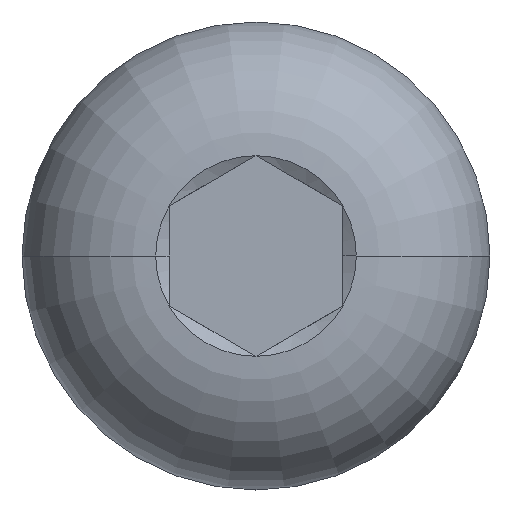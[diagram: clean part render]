
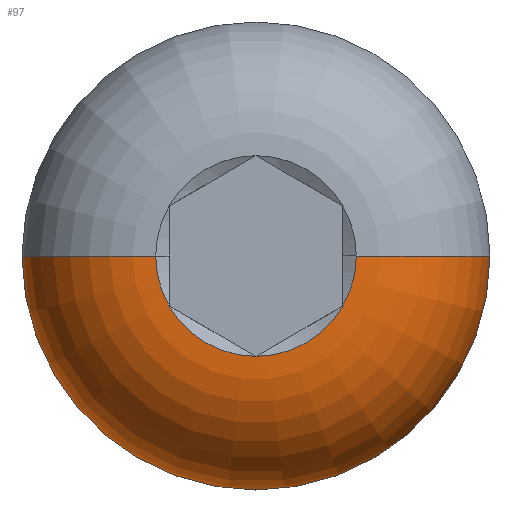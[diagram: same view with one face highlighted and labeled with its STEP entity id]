
A CAD part, left-side view. The second image highlights one B-rep face of the part: STEP entity #97.
In plain terms, the highlighted toroidal (fillet/blend) face has major radius 0.75 mm and minor radius 1 mm.
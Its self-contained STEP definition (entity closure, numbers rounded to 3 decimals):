
#41=TOROIDAL_SURFACE('',#766,0.75,1.);
#97=ADVANCED_FACE('',(#130),#41,.T.);
#130=FACE_OUTER_BOUND('',#164,.F.);
#164=EDGE_LOOP('',(#218,#219,#220,#221,#222,#223,#224));
#218=ORIENTED_EDGE('',*,*,#656,.F.);
#219=ORIENTED_EDGE('',*,*,#659,.F.);
#220=ORIENTED_EDGE('',*,*,#652,.T.);
#221=ORIENTED_EDGE('',*,*,#650,.T.);
#222=ORIENTED_EDGE('',*,*,#649,.T.);
#223=ORIENTED_EDGE('',*,*,#653,.T.);
#224=ORIENTED_EDGE('',*,*,#660,.F.);
#607=CIRCLE('',#747,0.75);
#608=CIRCLE('',#748,0.75);
#610=CIRCLE('',#750,0.75);
#611=CIRCLE('',#751,0.75);
#614=CIRCLE('',#754,1.75);
#615=CIRCLE('',#755,1.);
#616=CIRCLE('',#756,1.);
#649=EDGE_CURVE('',#719,#725,#607,.T.);
#650=EDGE_CURVE('',#720,#719,#608,.T.);
#652=EDGE_CURVE('',#710,#720,#610,.T.);
#653=EDGE_CURVE('',#725,#709,#611,.T.);
#656=EDGE_CURVE('',#706,#705,#614,.T.);
#659=EDGE_CURVE('',#710,#706,#615,.T.);
#660=EDGE_CURVE('',#705,#709,#616,.T.);
#705=VERTEX_POINT('',#967);
#706=VERTEX_POINT('',#968);
#709=VERTEX_POINT('',#971);
#710=VERTEX_POINT('',#972);
#719=VERTEX_POINT('',#981);
#720=VERTEX_POINT('',#982);
#725=VERTEX_POINT('',#987);
#747=AXIS2_PLACEMENT_3D('',#1051,#828,#829);
#748=AXIS2_PLACEMENT_3D('',#1052,#830,#831);
#750=AXIS2_PLACEMENT_3D('',#1054,#834,#835);
#751=AXIS2_PLACEMENT_3D('',#1055,#836,#837);
#754=AXIS2_PLACEMENT_3D('',#1058,#842,#843);
#755=AXIS2_PLACEMENT_3D('',#1061,#846,#847);
#756=AXIS2_PLACEMENT_3D('',#1062,#848,#849);
#766=AXIS2_PLACEMENT_3D('',#1086,#882,#883);
#828=DIRECTION('',(-1.,0.,0.));
#829=DIRECTION('',(0.,0.,-1.));
#830=DIRECTION('',(-1.,0.,0.));
#831=DIRECTION('',(0.,0.867,-0.499));
#834=DIRECTION('',(-1.,0.,0.));
#835=DIRECTION('',(0.,1.,0.));
#836=DIRECTION('',(-1.,0.,0.));
#837=DIRECTION('',(0.,-0.867,-0.499));
#842=DIRECTION('',(-1.,0.,0.));
#843=DIRECTION('',(0.,1.,0.));
#846=DIRECTION('',(0.,0.,-1.));
#847=DIRECTION('',(-1.,0.,0.));
#848=DIRECTION('',(0.,0.,-1.));
#849=DIRECTION('',(0.,-1.,0.));
#882=DIRECTION('',(-1.,0.,0.));
#883=DIRECTION('',(0.,-1.,0.));
#967=CARTESIAN_POINT('',(-0.3,-1.75,0.));
#968=CARTESIAN_POINT('',(-0.3,1.75,0.));
#971=CARTESIAN_POINT('',(-1.3,-0.75,0.));
#972=CARTESIAN_POINT('',(-1.3,0.75,0.));
#981=CARTESIAN_POINT('',(-1.3,0.,-0.75));
#982=CARTESIAN_POINT('',(-1.3,0.65,-0.375));
#987=CARTESIAN_POINT('',(-1.3,-0.65,-0.375));
#1051=CARTESIAN_POINT('',(-1.3,0.,0.));
#1052=CARTESIAN_POINT('',(-1.3,0.,0.));
#1054=CARTESIAN_POINT('',(-1.3,0.,0.));
#1055=CARTESIAN_POINT('',(-1.3,0.,0.));
#1058=CARTESIAN_POINT('',(-0.3,0.,0.));
#1061=CARTESIAN_POINT('',(-0.3,0.75,0.));
#1062=CARTESIAN_POINT('',(-0.3,-0.75,0.));
#1086=CARTESIAN_POINT('',(-0.3,0.,0.));
